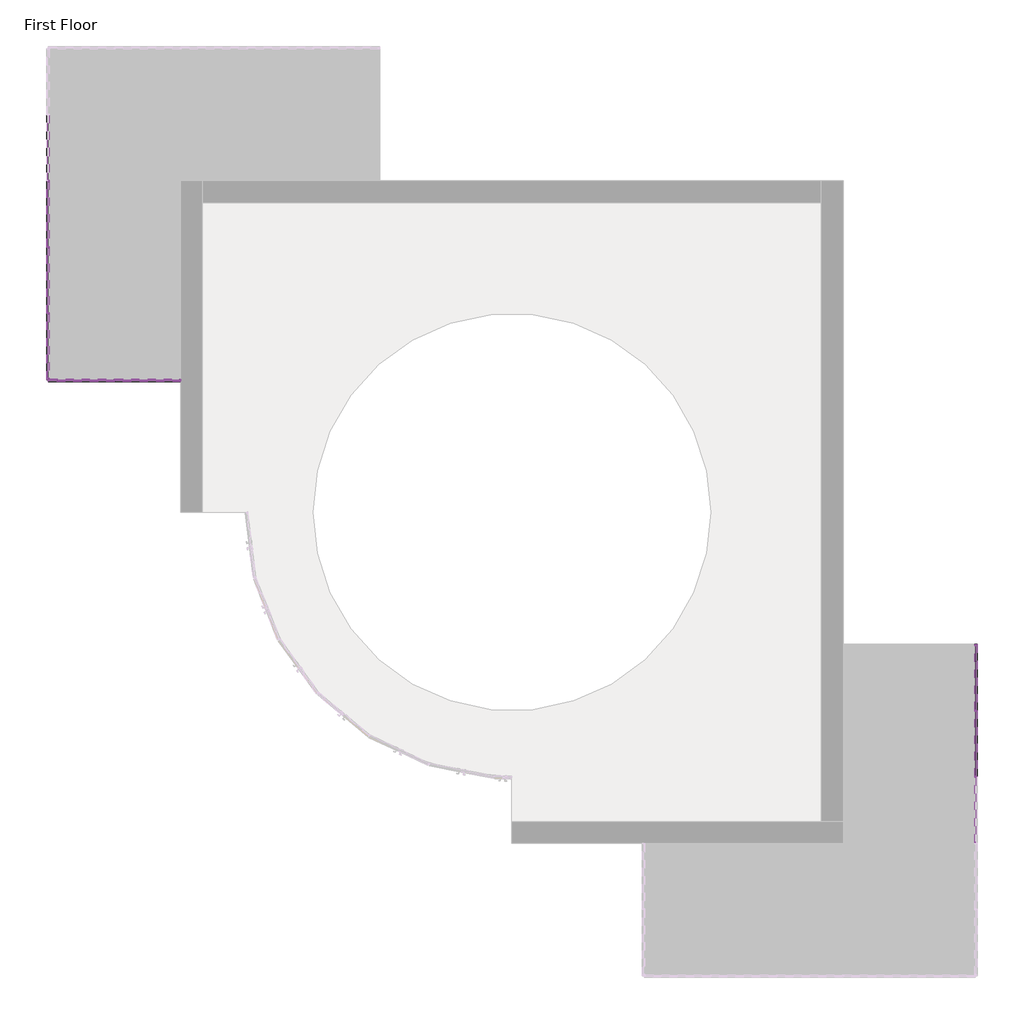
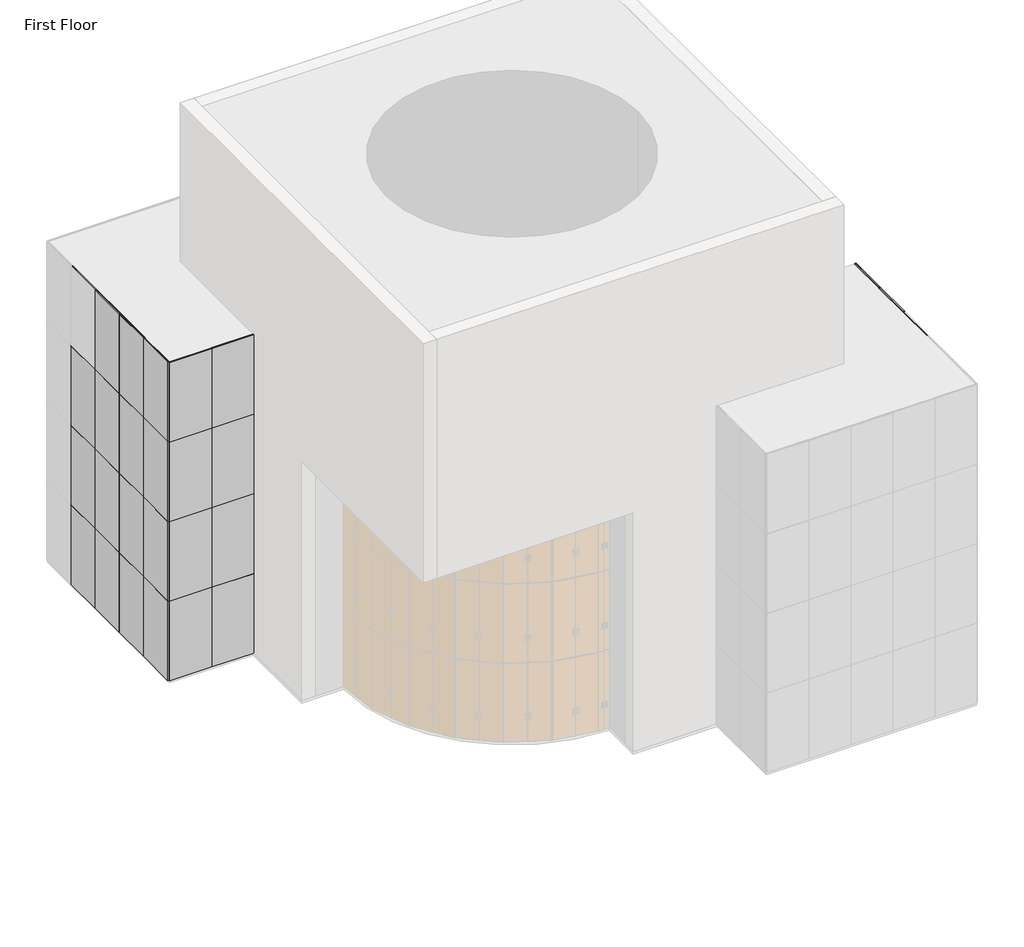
# One storey, part 3 of 4: 83 members, 31 plates.
"""IFC4 building model written with IfcOpenShell, lengths in millimetres."""

import ifcopenshell
import ifcopenshell.guid

model = None  # the IFC model being written
_history = None  # IfcOwnerHistory: only IFC2X3 demands one
_inside = {}  # id of a spatial element -> (the spatial element, [elements in it])
_under = {}  # id of a project, library or spatial element -> (it, [spatial elements below it])
_declared = {}  # id of a project -> (the project, [libraries it declares])
_typed = {}  # id of a type object -> (the type object, [elements of that type])
_made_of = {}  # id of a material, layer set ... -> (it, [elements and type objects made of it])


def new_model(schema):
    """Start an empty IFC model of exactly this schema.

    Asked for "IFC4X3", IfcOpenShell would pick the latest addendum, in which some entities
    have other attributes; the version numbers below select the first issue.
    IFC2X3 requires an IfcOwnerHistory on every rooted entity: one is made here for all.
    """
    global model, _history
    if schema == "IFC4X3":
        model = ifcopenshell.file(schema_version=(4, 3, 0, 0))
    else:
        model = ifcopenshell.file(schema=schema)
    _inside.clear()
    _under.clear()
    _declared.clear()
    _typed.clear()
    _made_of.clear()
    _history = None
    if model.schema == "IFC2X3":
        org = make("IfcOrganization", Name="unknown")
        user = make(
            "IfcPersonAndOrganization",
            ThePerson=make("IfcPerson", FamilyName="unknown"),
            TheOrganization=org,
        )
        app = make(
            "IfcApplication",
            ApplicationDeveloper=org,
            Version="unknown",
            ApplicationFullName="unknown",
            ApplicationIdentifier="unknown",
        )
        _history = make(
            "IfcOwnerHistory",
            OwningUser=user,
            OwningApplication=app,
            ChangeAction="ADDED",
            CreationDate=0,
        )
    return model


def make(cls, **values):
    """One entity of the class cls with the attributes given. An attribute that is None is left unset."""
    return model.create_entity(
        cls, **{name: value for name, value in values.items() if value is not None}
    )


def rooted(cls, **values):
    """An entity with a GlobalId (a new one), such as an element, a storey or a relation."""
    return make(cls, GlobalId=ifcopenshell.guid.new(), OwnerHistory=_history, **values)


def si_unit(unit_type, name, prefix=None):
    """IfcSIUnit, for example si_unit("LENGTHUNIT", "METRE", prefix="MILLI")."""
    return make("IfcSIUnit", UnitType=unit_type, Prefix=prefix, Name=name)


def assignment(units):
    """IfcUnitAssignment: the units of a project."""
    return None if units is None else make("IfcUnitAssignment", Units=units)


def point(xyz):
    """IfcCartesianPoint."""
    return None if xyz is None else make("IfcCartesianPoint", Coordinates=xyz)


def direction(xyz):
    """IfcDirection."""
    return None if xyz is None else make("IfcDirection", DirectionRatios=xyz)


def frame(location, z_axis=None, x_axis=None):
    """IfcAxis2Placement3D, a coordinate frame: its origin and axes. An axis left out is left unset."""
    return make(
        "IfcAxis2Placement3D",
        Location=point(location),
        Axis=direction(z_axis),
        RefDirection=direction(x_axis),
    )


def origin():
    """The frame at (0, 0, 0) with its axes left unset."""
    return frame((0.0, 0.0, 0.0))


def origin_with_axes():
    """The frame at (0, 0, 0) with the z axis (0, 0, 1) and the x axis (1, 0, 0) written out."""
    return frame((0.0, 0.0, 0.0), z_axis=(0.0, 0.0, 1.0), x_axis=(1.0, 0.0, 0.0))


def place(relative_to, where):
    """IfcLocalPlacement: puts the frame where relative to a parent placement (None: the world)."""
    return make(
        "IfcLocalPlacement", PlacementRelTo=relative_to, RelativePlacement=where
    )


def context(
    kind, dimensions, precision=None, world=None, true_north=None, identifier=None
):
    """IfcGeometricRepresentationContext, for example the 3D "Model" context."""
    return make(
        "IfcGeometricRepresentationContext",
        ContextIdentifier=identifier,
        ContextType=kind,
        CoordinateSpaceDimension=dimensions,
        Precision=precision,
        WorldCoordinateSystem=world,
        TrueNorth=true_north,
    )


def project(units=None, contexts=None):
    """IfcProject with its units and contexts."""
    return rooted(
        "IfcProject",
        Name="project",
        RepresentationContexts=contexts,
        UnitsInContext=assignment(units),
    )


def spatial(cls, under=None, at=None, **own):
    """A site, building, storey or space (cls), placed at a placement, below another one or the project."""
    s = rooted(cls, ObjectPlacement=at, **own)
    if under is not None:
        _under.setdefault(under.id(), (under, []))[1].append(s)
    return s


def polyline(points):
    """IfcPolyline through the points."""
    return make("IfcPolyline", Points=[point(p) for p in points])


def outline(outer, holes=None, kind="AREA"):
    """IfcArbitraryClosedProfileDef: a profile drawn as a closed curve; with holes, ...WithVoids."""
    if holes is None:
        return make("IfcArbitraryClosedProfileDef", ProfileType=kind, OuterCurve=outer)
    return make(
        "IfcArbitraryProfileDefWithVoids",
        ProfileType=kind,
        OuterCurve=outer,
        InnerCurves=holes,
    )


def extrude(swept, where, along, depth):
    """IfcExtrudedAreaSolid: the profile swept, set in the frame where, extruded along a direction by depth."""
    return make(
        "IfcExtrudedAreaSolid",
        SweptArea=swept,
        Position=where,
        ExtrudedDirection=direction(along),
        Depth=depth,
    )


def shape(context_of_items, identifier, shape_type, items):
    """IfcShapeRepresentation: the items that make up one representation, for example the "Body"."""
    return make(
        "IfcShapeRepresentation",
        ContextOfItems=context_of_items,
        RepresentationIdentifier=identifier,
        RepresentationType=shape_type,
        Items=items,
    )


def source(mapping_origin, context_of_items, identifier, shape_type, items):
    """IfcRepresentationMap: a shape defined once, which mapped items show again and again."""
    return make(
        "IfcRepresentationMap",
        MappingOrigin=mapping_origin,
        MappedRepresentation=shape(context_of_items, identifier, shape_type, items),
    )


def transform(
    local_origin,
    x_axis=None,
    y_axis=None,
    z_axis=None,
    scale=None,
    scale2=None,
    scale3=None,
    uniform=True,
):
    """IfcCartesianTransformationOperator3D, or its non-uniform kind. x_axis, y_axis, z_axis: its Axis1, 2, 3."""
    if uniform:
        return make(
            "IfcCartesianTransformationOperator3D",
            Axis1=direction(x_axis),
            Axis2=direction(y_axis),
            LocalOrigin=point(local_origin),
            Scale=scale,
            Axis3=direction(z_axis),
        )
    return make(
        "IfcCartesianTransformationOperator3DnonUniform",
        Axis1=direction(x_axis),
        Axis2=direction(y_axis),
        LocalOrigin=point(local_origin),
        Scale=scale,
        Axis3=direction(z_axis),
        Scale2=scale2,
        Scale3=scale3,
    )


def mapped(mapping_source, mapping_target):
    """IfcMappedItem: shows the shape of a source again, moved by a transform."""
    return make(
        "IfcMappedItem", MappingSource=mapping_source, MappingTarget=mapping_target
    )


def made_of(thing, what):
    """Note that an element or type object is made of a material, layer set ...; save() writes the relation."""
    if what is not None:
        _made_of.setdefault(what.id(), (what, []))[1].append(thing)
    return thing


def element(
    cls,
    number,
    at=None,
    inside=None,
    cuts=None,
    type_object=None,
    material=None,
    context=None,
    identifier="Body",
    shape_type=None,
    held_by="IfcProductDefinitionShape",
    body=None,
    shapes=None,
    **own,
):
    """One element of the class cls, such as IfcWall. Its Tag is "e" and its number.

    at: its placement. inside: the storey or other place that contains it. cuts: it is an
    opening in that element (IfcRelVoidsElement). A single representation is given by context,
    identifier, shape_type and body (its items); several are given by shapes. held_by: the class
    of the entity that holds the representations. save() writes the other relations.
    """
    e = rooted(cls, Tag="e%d" % number, ObjectPlacement=at, **own)
    if body is not None:
        shapes = [shape(context, identifier, shape_type, body)]
    if shapes is not None:
        e.Representation = make(held_by, Representations=shapes)
    if inside is not None:
        _inside.setdefault(inside.id(), (inside, []))[1].append(e)
    if cuts is not None:
        rooted(
            "IfcRelVoidsElement", RelatingBuildingElement=cuts, RelatedOpeningElement=e
        )
    if type_object is not None:
        _typed.setdefault(type_object.id(), (type_object, []))[1].append(e)
    return made_of(e, material)


def aggregate(whole, parts):
    """IfcRelAggregates: a whole, such as a stair, and the parts it consists of."""
    return rooted("IfcRelAggregates", RelatingObject=whole, RelatedObjects=parts)


def save(model, path):
    """Write the relations noted so far, then the file.

    IfcRelAggregates (storeys below a building ...), IfcRelContainedInSpatialStructure (elements
    in a storey), IfcRelDefinesByType, IfcRelAssociatesMaterial and IfcRelDeclares: one each for
    every whole, place, type object, material and project.
    """
    for whole, parts in _under.values():
        aggregate(whole, parts)
    for where, things in _inside.values():
        rooted(
            "IfcRelContainedInSpatialStructure",
            RelatedElements=things,
            RelatingStructure=where,
        )
    for kind, things in _typed.values():
        rooted("IfcRelDefinesByType", RelatedObjects=things, RelatingType=kind)
    for what, things in _made_of.values():
        rooted("IfcRelAssociatesMaterial", RelatedObjects=things, RelatingMaterial=what)
    for by, libraries in _declared.values():
        rooted("IfcRelDeclares", RelatingContext=by, RelatedDefinitions=libraries)
    model.write(path)


def member_cbdb9076(model_context):
    return source(origin(), model_context, "Body", "SweptSolid", [
        extrude(outline(polyline([(12.7, 12.7), (12.7, -12.7), (-12.7, -12.7), (-12.7, 12.7), (12.7, 12.7)])), frame((0.0, 0.0, -3048.0), z_axis=(0.0, 0.0, 1.0), x_axis=(1.0, 0.0, 0.0)), (0.0, 0.0, 1.0), 3048.0),
    ])


def member_7e523723(model_context):
    return source(origin(), model_context, "Body", "SweptSolid", [
        extrude(outline(polyline([(0.0, 12.7), (0.0, -12.7), (-25.4, -12.7), (-25.4, 12.7), (0.0, 12.7)])), frame((0.0, 0.0, -3048.0), z_axis=(0.0, 0.0, 1.0), x_axis=(1.0, 0.0, 0.0)), (0.0, 0.0, 1.0), 3048.0),
    ])


def member_e16e0e7d(model_context):
    return source(origin(), model_context, "Body", "SweptSolid", [
        extrude(outline(polyline([(0.0, 12.7), (0.0, -12.7), (-25.4, -12.7), (-25.4, 12.7), (0.0, 12.7)])), frame((0.0, 0.0, -1485.8999997), z_axis=(0.0, 0.0, 1.0), x_axis=(1.0, 0.0, 0.0)), (0.0, 0.0, 1.0), 1485.8999997),
    ])


def member_15743826(model_context):
    return source(origin(), model_context, "Body", "SweptSolid", [
        extrude(outline(polyline([(0.0, 12.7), (0.0, -12.7), (-25.4, -12.7), (-25.4, 12.7), (0.0, 12.7)])), frame((0.0, 0.0, -1485.9000003), z_axis=(0.0, 0.0, 1.0), x_axis=(1.0, 0.0, 0.0)), (0.0, 0.0, 1.0), 1485.9000003),
    ])


def member_c4f80b05(model_context):
    return source(origin(), model_context, "Body", "SweptSolid", [
        extrude(outline(polyline([(12.7, 12.7), (12.7, -12.7), (-12.7, -12.7), (-12.7, 12.7), (12.7, 12.7)])), frame((0.0, 0.0, -1485.9000003), z_axis=(0.0, 0.0, 1.0), x_axis=(1.0, 0.0, 0.0)), (0.0, 0.0, 1.0), 1485.9000003),
    ])


def member_9fd3d903(model_context):
    return source(origin(), model_context, "Body", "SweptSolid", [
        extrude(outline(polyline([(12.7, 12.7), (12.7, -12.7), (-12.7, -12.7), (-12.7, 12.7), (12.7, 12.7)])), frame((0.0, 0.0, -1498.6), z_axis=(0.0, 0.0, 1.0), x_axis=(1.0, 0.0, 0.0)), (0.0, 0.0, 1.0), 1498.6),
    ])


def member_6604d1e0(model_context):
    return source(origin(), model_context, "Body", "SweptSolid", [
        extrude(outline(polyline([(0.0, 12.7), (0.0, -12.7), (-25.4, -12.7), (-25.4, 12.7), (0.0, 12.7)])), frame((0.0, 0.0, -1498.6), z_axis=(0.0, 0.0, 1.0), x_axis=(1.0, 0.0, 0.0)), (0.0, 0.0, 1.0), 1498.6),
    ])


def system_panel_glazed_c0c5e10a(model_context):
    return source(origin(), model_context, "Body", "SweptSolid", [
        extrude(outline(polyline([(762.0000002, -44.45), (-762.0000002, -44.45), (-762.0000002, -19.05), (762.0000002, -19.05), (762.0000002, -44.45)])), origin_with_axes(), (0.0, 0.0, 1.0), 3048.0),
    ])


model = new_model("IFC4")

# Units and contexts
model_context = context("Model", 3, world=origin())
ifc_project = project(units=[si_unit("LENGTHUNIT", "METRE", prefix="MILLI")], contexts=[model_context])

# Site, building, storey
site = spatial("IfcSite", under=ifc_project)
building = spatial("IfcBuilding", under=site)
storey = spatial("IfcBuildingStorey", under=building, Name="First Floor", Elevation=0.0)

# Members
placement = place(None, origin())
member_shape = member_cbdb9076(model_context)
element("IfcMember", 1, ObjectType="Rectangular Mullion : 1\" Square", at=placement, inside=storey, context=model_context, shape_type="MappedRepresentation", body=[
    mapped(member_shape, transform((10913.314252, -6138.6219492, 0.0), x_axis=(0.0, 1.0, 0.0), y_axis=(1.0, 0.0, 0.0), z_axis=(0.0, 0.0, -1.0))),
])
element("IfcMember", 2, ObjectType="Rectangular Mullion : 1\" Square", at=placement, inside=storey, context=model_context, shape_type="MappedRepresentation", body=[
    mapped(member_shape, transform((10913.314252, -4614.6219492, 0.0), x_axis=(0.0, 1.0, 0.0), y_axis=(1.0, 0.0, 0.0), z_axis=(0.0, 0.0, -1.0))),
])
element("IfcMember", 3, ObjectType="Rectangular Mullion : 1\" Square", at=placement, inside=storey, context=model_context, shape_type="MappedRepresentation", body=[
    mapped(member_shape, transform((-8898.6857477, 3005.3780505, 0.0), x_axis=(1.0, 0.0, 0.0), y_axis=(0.0, -1.0, 0.0), z_axis=(0.0, 0.0, -1.0))),
])
element("IfcMember", 4, ObjectType="Rectangular Mullion : 1\" Square", at=placement, inside=storey, context=model_context, shape_type="MappedRepresentation", body=[
    mapped(member_shape, transform((-10422.685748, 7577.3780502, 0.0), x_axis=(0.0, -1.0, 0.0), y_axis=(-1.0, 0.0, 0.0), z_axis=(0.0, 0.0, -1.0))),
])
element("IfcMember", 5, ObjectType="Rectangular Mullion : 1\" Square", at=placement, inside=storey, context=model_context, shape_type="MappedRepresentation", body=[
    mapped(member_shape, transform((-10422.685748, 6053.3780502, 0.0), x_axis=(0.0, -1.0, 0.0), y_axis=(-1.0, 0.0, 0.0), z_axis=(0.0, 0.0, -1.0))),
])
element("IfcMember", 6, ObjectType="Rectangular Mullion : 1\" Square", at=placement, inside=storey, context=model_context, shape_type="MappedRepresentation", body=[
    mapped(member_shape, transform((-10422.685748, 4529.3780502, 0.0), x_axis=(0.0, -1.0, 0.0), y_axis=(-1.0, 0.0, 0.0), z_axis=(0.0, 0.0, -1.0))),
])
element("IfcMember", 7, ObjectType="Rectangular Mullion : 1\" Square", at=placement, inside=storey, context=model_context, shape_type="MappedRepresentation", body=[
    mapped(member_shape, transform((10913.314252, -6138.6219492, 3048.0), x_axis=(0.0, 1.0, 0.0), y_axis=(1.0, 0.0, 0.0), z_axis=(0.0, 0.0, -1.0))),
])
element("IfcMember", 8, ObjectType="Rectangular Mullion : 1\" Square", at=placement, inside=storey, context=model_context, shape_type="MappedRepresentation", body=[
    mapped(member_shape, transform((10913.314252, -6138.6219492, 6096.0), x_axis=(0.0, 1.0, 0.0), y_axis=(1.0, 0.0, 0.0), z_axis=(0.0, 0.0, -1.0))),
])
element("IfcMember", 9, ObjectType="Rectangular Mullion : 1\" Square", at=placement, inside=storey, context=model_context, shape_type="MappedRepresentation", body=[
    mapped(member_shape, transform((10913.314252, -4614.6219492, 3048.0), x_axis=(0.0, 1.0, 0.0), y_axis=(1.0, 0.0, 0.0), z_axis=(0.0, 0.0, -1.0))),
])
element("IfcMember", 10, ObjectType="Rectangular Mullion : 1\" Square", at=placement, inside=storey, context=model_context, shape_type="MappedRepresentation", body=[
    mapped(member_shape, transform((10913.314252, -4614.6219492, 6096.0), x_axis=(0.0, 1.0, 0.0), y_axis=(1.0, 0.0, 0.0), z_axis=(0.0, 0.0, -1.0))),
])
element("IfcMember", 11, ObjectType="Rectangular Mullion : 1\" Square", at=placement, inside=storey, context=model_context, shape_type="MappedRepresentation", body=[
    mapped(member_shape, transform((-8898.6857477, 3005.3780505, 3048.0), x_axis=(1.0, 0.0, 0.0), y_axis=(0.0, -1.0, 0.0), z_axis=(0.0, 0.0, -1.0))),
])
element("IfcMember", 12, ObjectType="Rectangular Mullion : 1\" Square", at=placement, inside=storey, context=model_context, shape_type="MappedRepresentation", body=[
    mapped(member_shape, transform((-8898.6857477, 3005.3780505, 6096.0), x_axis=(1.0, 0.0, 0.0), y_axis=(0.0, -1.0, 0.0), z_axis=(0.0, 0.0, -1.0))),
])
element("IfcMember", 13, ObjectType="Rectangular Mullion : 1\" Square", at=placement, inside=storey, context=model_context, shape_type="MappedRepresentation", body=[
    mapped(member_shape, transform((-10422.685748, 7577.3780502, 3048.0), x_axis=(0.0, -1.0, 0.0), y_axis=(-1.0, 0.0, 0.0), z_axis=(0.0, 0.0, -1.0))),
])
element("IfcMember", 14, ObjectType="Rectangular Mullion : 1\" Square", at=placement, inside=storey, context=model_context, shape_type="MappedRepresentation", body=[
    mapped(member_shape, transform((-10422.685748, 7577.3780502, 6096.0), x_axis=(0.0, -1.0, 0.0), y_axis=(-1.0, 0.0, 0.0), z_axis=(0.0, 0.0, -1.0))),
])
element("IfcMember", 15, ObjectType="Rectangular Mullion : 1\" Square", at=placement, inside=storey, context=model_context, shape_type="MappedRepresentation", body=[
    mapped(member_shape, transform((-10422.685748, 6053.3780502, 3048.0), x_axis=(0.0, -1.0, 0.0), y_axis=(-1.0, 0.0, 0.0), z_axis=(0.0, 0.0, -1.0))),
])
element("IfcMember", 16, ObjectType="Rectangular Mullion : 1\" Square", at=placement, inside=storey, context=model_context, shape_type="MappedRepresentation", body=[
    mapped(member_shape, transform((-10422.685748, 6053.3780502, 6096.0), x_axis=(0.0, -1.0, 0.0), y_axis=(-1.0, 0.0, 0.0), z_axis=(0.0, 0.0, -1.0))),
])
element("IfcMember", 17, ObjectType="Rectangular Mullion : 1\" Square", at=placement, inside=storey, context=model_context, shape_type="MappedRepresentation", body=[
    mapped(member_shape, transform((-10422.685748, 4529.3780502, 3048.0), x_axis=(0.0, -1.0, 0.0), y_axis=(-1.0, 0.0, 0.0), z_axis=(0.0, 0.0, -1.0))),
])
element("IfcMember", 18, ObjectType="Rectangular Mullion : 1\" Square", at=placement, inside=storey, context=model_context, shape_type="MappedRepresentation", body=[
    mapped(member_shape, transform((-10422.685748, 4529.3780502, 6096.0), x_axis=(0.0, -1.0, 0.0), y_axis=(-1.0, 0.0, 0.0), z_axis=(0.0, 0.0, -1.0))),
])
element("IfcMember", 19, ObjectType="Rectangular Mullion : 1\" Square", at=placement, inside=storey, context=model_context, shape_type="MappedRepresentation", body=[
    mapped(member_shape, transform((10913.314252, -6138.6219492, 9144.0), x_axis=(0.0, 1.0, 0.0), y_axis=(1.0, 0.0, 0.0), z_axis=(0.0, 0.0, -1.0))),
])
element("IfcMember", 20, ObjectType="Rectangular Mullion : 1\" Square", at=placement, inside=storey, context=model_context, shape_type="MappedRepresentation", body=[
    mapped(member_shape, transform((10913.314252, -4614.6219492, 9144.0), x_axis=(0.0, 1.0, 0.0), y_axis=(1.0, 0.0, 0.0), z_axis=(0.0, 0.0, -1.0))),
])
element("IfcMember", 21, ObjectType="Rectangular Mullion : 1\" Square", at=placement, inside=storey, context=model_context, shape_type="MappedRepresentation", body=[
    mapped(member_shape, transform((-8898.6857477, 3005.3780505, 9144.0), x_axis=(1.0, 0.0, 0.0), y_axis=(0.0, -1.0, 0.0), z_axis=(0.0, 0.0, -1.0))),
])
element("IfcMember", 22, ObjectType="Rectangular Mullion : 1\" Square", at=placement, inside=storey, context=model_context, shape_type="MappedRepresentation", body=[
    mapped(member_shape, transform((-10422.685748, 7577.3780502, 9144.0), x_axis=(0.0, -1.0, 0.0), y_axis=(-1.0, 0.0, 0.0), z_axis=(0.0, 0.0, -1.0))),
])
element("IfcMember", 23, ObjectType="Rectangular Mullion : 1\" Square", at=placement, inside=storey, context=model_context, shape_type="MappedRepresentation", body=[
    mapped(member_shape, transform((-10422.685748, 6053.3780502, 9144.0), x_axis=(0.0, -1.0, 0.0), y_axis=(-1.0, 0.0, 0.0), z_axis=(0.0, 0.0, -1.0))),
])
element("IfcMember", 24, ObjectType="Rectangular Mullion : 1\" Square", at=placement, inside=storey, context=model_context, shape_type="MappedRepresentation", body=[
    mapped(member_shape, transform((-10422.685748, 4529.3780502, 9144.0), x_axis=(0.0, -1.0, 0.0), y_axis=(-1.0, 0.0, 0.0), z_axis=(0.0, 0.0, -1.0))),
])
member_2_shape = member_7e523723(model_context)
element("IfcMember", 25, ObjectType="Rectangular Mullion : 1\" Square", at=placement, inside=storey, context=model_context, shape_type="MappedRepresentation", body=[
    mapped(member_2_shape, transform((10913.314252, -3090.6219495, 0.0), x_axis=(0.0, 1.0, 0.0), y_axis=(1.0, 0.0, 0.0), z_axis=(0.0, 0.0, -1.0))),
])
element("IfcMember", 26, ObjectType="Rectangular Mullion : 1\" Square", at=placement, inside=storey, context=model_context, shape_type="MappedRepresentation", body=[
    mapped(member_2_shape, transform((-7374.685748, 3005.3780505, 0.0), x_axis=(1.0, 0.0, 0.0), y_axis=(0.0, -1.0, 0.0), z_axis=(0.0, 0.0, -1.0))),
])
element("IfcMember", 27, ObjectType="Rectangular Mullion : 1\" Square", at=placement, inside=storey, context=model_context, shape_type="MappedRepresentation", body=[
    mapped(member_2_shape, transform((-10422.685748, 3005.3780505, 0.0), x_axis=(0.0, -1.0, 0.0), y_axis=(-1.0, 0.0, 0.0), z_axis=(0.0, 0.0, -1.0))),
])
element("IfcMember", 28, ObjectType="Rectangular Mullion : 1\" Square", at=placement, inside=storey, context=model_context, shape_type="MappedRepresentation", body=[
    mapped(member_2_shape, transform((-10422.685748, 3005.3780505, 12192.0), x_axis=(-1.0, 0.0, 0.0), y_axis=(0.0, -1.0, 0.0), z_axis=(0.0, 0.0, 1.0))),
])
element("IfcMember", 29, ObjectType="Rectangular Mullion : 1\" Square", at=placement, inside=storey, context=model_context, shape_type="MappedRepresentation", body=[
    mapped(member_2_shape, transform((-10422.685748, 3005.3780505, 3048.0), x_axis=(-1.0, 0.0, 0.0), y_axis=(0.0, -1.0, 0.0), z_axis=(0.0, 0.0, 1.0))),
])
element("IfcMember", 30, ObjectType="Rectangular Mullion : 1\" Square", at=placement, inside=storey, context=model_context, shape_type="MappedRepresentation", body=[
    mapped(member_2_shape, transform((-10422.685748, 3005.3780505, 6096.0), x_axis=(-1.0, 0.0, 0.0), y_axis=(0.0, -1.0, 0.0), z_axis=(0.0, 0.0, 1.0))),
])
element("IfcMember", 31, ObjectType="Rectangular Mullion : 1\" Square", at=placement, inside=storey, context=model_context, shape_type="MappedRepresentation", body=[
    mapped(member_2_shape, transform((-10422.685748, 3005.3780505, 9144.0), x_axis=(-1.0, 0.0, 0.0), y_axis=(0.0, -1.0, 0.0), z_axis=(0.0, 0.0, 1.0))),
])
element("IfcMember", 32, ObjectType="Rectangular Mullion : 1\" Square", at=placement, inside=storey, context=model_context, shape_type="MappedRepresentation", body=[
    mapped(member_2_shape, transform((10913.314252, -3090.6219495, 3048.0), x_axis=(0.0, 1.0, 0.0), y_axis=(1.0, 0.0, 0.0), z_axis=(0.0, 0.0, -1.0))),
])
element("IfcMember", 33, ObjectType="Rectangular Mullion : 1\" Square", at=placement, inside=storey, context=model_context, shape_type="MappedRepresentation", body=[
    mapped(member_2_shape, transform((10913.314252, -3090.6219495, 6096.0), x_axis=(0.0, 1.0, 0.0), y_axis=(1.0, 0.0, 0.0), z_axis=(0.0, 0.0, -1.0))),
])
element("IfcMember", 34, ObjectType="Rectangular Mullion : 1\" Square", at=placement, inside=storey, context=model_context, shape_type="MappedRepresentation", body=[
    mapped(member_2_shape, transform((-7374.685748, 3005.3780505, 3048.0), x_axis=(1.0, 0.0, 0.0), y_axis=(0.0, -1.0, 0.0), z_axis=(0.0, 0.0, -1.0))),
])
element("IfcMember", 35, ObjectType="Rectangular Mullion : 1\" Square", at=placement, inside=storey, context=model_context, shape_type="MappedRepresentation", body=[
    mapped(member_2_shape, transform((-7374.685748, 3005.3780505, 6096.0), x_axis=(1.0, 0.0, 0.0), y_axis=(0.0, -1.0, 0.0), z_axis=(0.0, 0.0, -1.0))),
])
element("IfcMember", 36, ObjectType="Rectangular Mullion : 1\" Square", at=placement, inside=storey, context=model_context, shape_type="MappedRepresentation", body=[
    mapped(member_2_shape, transform((-10422.685748, 3005.3780505, 3048.0), x_axis=(0.0, -1.0, 0.0), y_axis=(-1.0, 0.0, 0.0), z_axis=(0.0, 0.0, -1.0))),
])
element("IfcMember", 37, ObjectType="Rectangular Mullion : 1\" Square", at=placement, inside=storey, context=model_context, shape_type="MappedRepresentation", body=[
    mapped(member_2_shape, transform((-10422.685748, 3005.3780505, 6096.0), x_axis=(0.0, -1.0, 0.0), y_axis=(-1.0, 0.0, 0.0), z_axis=(0.0, 0.0, -1.0))),
])
element("IfcMember", 38, ObjectType="Rectangular Mullion : 1\" Square", at=placement, inside=storey, context=model_context, shape_type="MappedRepresentation", body=[
    mapped(member_2_shape, transform((10913.314252, -3090.6219495, 9144.0), x_axis=(0.0, 1.0, 0.0), y_axis=(1.0, 0.0, 0.0), z_axis=(0.0, 0.0, -1.0))),
])
element("IfcMember", 39, ObjectType="Rectangular Mullion : 1\" Square", at=placement, inside=storey, context=model_context, shape_type="MappedRepresentation", body=[
    mapped(member_2_shape, transform((-7374.685748, 3005.3780505, 9144.0), x_axis=(1.0, 0.0, 0.0), y_axis=(0.0, -1.0, 0.0), z_axis=(0.0, 0.0, -1.0))),
])
element("IfcMember", 40, ObjectType="Rectangular Mullion : 1\" Square", at=placement, inside=storey, context=model_context, shape_type="MappedRepresentation", body=[
    mapped(member_2_shape, transform((-10422.685748, 3005.3780505, 9144.0), x_axis=(0.0, -1.0, 0.0), y_axis=(-1.0, 0.0, 0.0), z_axis=(0.0, 0.0, -1.0))),
])
member_3_shape = member_e16e0e7d(model_context)
element("IfcMember", 41, ObjectType="Rectangular Mullion : 1\" Square", at=placement, inside=storey, context=model_context, shape_type="MappedRepresentation", body=[
    mapped(member_3_shape, transform((10913.314252, -3116.0219495, 12192.0), x_axis=(0.0, 0.0, 1.0), y_axis=(1.0, 0.0, 0.0), z_axis=(0.0, 1.0, 0.0))),
])
element("IfcMember", 42, ObjectType="Rectangular Mullion : 1\" Square", at=placement, inside=storey, context=model_context, shape_type="MappedRepresentation", body=[
    mapped(member_3_shape, transform((-7400.085748, 3005.3780505, 12192.0), x_axis=(0.0, 0.0, 1.0), y_axis=(0.0, -1.0, 0.0), z_axis=(1.0, 0.0, 0.0))),
])
element("IfcMember", 43, ObjectType="Rectangular Mullion : 1\" Square", at=placement, inside=storey, context=model_context, shape_type="MappedRepresentation", body=[
    mapped(member_3_shape, transform((-8911.3857477, 3005.3780505, 12192.0), x_axis=(0.0, 0.0, 1.0), y_axis=(0.0, -1.0, 0.0), z_axis=(1.0, 0.0, 0.0))),
])
element("IfcMember", 44, ObjectType="Rectangular Mullion : 1\" Square", at=placement, inside=storey, context=model_context, shape_type="MappedRepresentation", body=[
    mapped(member_3_shape, transform((-10422.685748, 3030.7780505, 12192.0), x_axis=(0.0, 0.0, 1.0), y_axis=(-1.0, 0.0, 0.0), z_axis=(0.0, -1.0, 0.0))),
])
member_4_shape = member_15743826(model_context)
element("IfcMember", 45, ObjectType="Rectangular Mullion : 1\" Square", at=placement, inside=storey, context=model_context, shape_type="MappedRepresentation", body=[
    mapped(member_4_shape, transform((10913.314252, -4601.9219492, 0.0), x_axis=(0.0, 0.0, -1.0), y_axis=(1.0, 0.0, 0.0), z_axis=(0.0, -1.0, 0.0))),
])
element("IfcMember", 46, ObjectType="Rectangular Mullion : 1\" Square", at=placement, inside=storey, context=model_context, shape_type="MappedRepresentation", body=[
    mapped(member_4_shape, transform((-10397.285748, 3005.3780505, 0.0), x_axis=(0.0, 0.0, -1.0), y_axis=(0.0, -1.0, 0.0), z_axis=(-1.0, 0.0, 0.0))),
])
element("IfcMember", 47, ObjectType="Rectangular Mullion : 1\" Square", at=placement, inside=storey, context=model_context, shape_type="MappedRepresentation", body=[
    mapped(member_4_shape, transform((-8885.9857477, 3005.3780505, 0.0), x_axis=(0.0, 0.0, -1.0), y_axis=(0.0, -1.0, 0.0), z_axis=(-1.0, 0.0, 0.0))),
])
element("IfcMember", 48, ObjectType="Rectangular Mullion : 1\" Square", at=placement, inside=storey, context=model_context, shape_type="MappedRepresentation", body=[
    mapped(member_4_shape, transform((-10422.685748, 4516.6780502, 0.0), x_axis=(0.0, 0.0, -1.0), y_axis=(-1.0, 0.0, 0.0), z_axis=(0.0, 1.0, 0.0))),
])
member_5_shape = member_c4f80b05(model_context)
element("IfcMember", 49, ObjectType="Rectangular Mullion : 1\" Square", at=placement, inside=storey, context=model_context, shape_type="MappedRepresentation", body=[
    mapped(member_5_shape, transform((10913.314252, -3116.0219495, 3048.0), x_axis=(0.0, 0.0, 1.0), y_axis=(1.0, 0.0, 0.0), z_axis=(0.0, 1.0, 0.0))),
])
element("IfcMember", 50, ObjectType="Rectangular Mullion : 1\" Square", at=placement, inside=storey, context=model_context, shape_type="MappedRepresentation", body=[
    mapped(member_5_shape, transform((10913.314252, -3116.0219495, 6096.0), x_axis=(0.0, 0.0, 1.0), y_axis=(1.0, 0.0, 0.0), z_axis=(0.0, 1.0, 0.0))),
])
element("IfcMember", 51, ObjectType="Rectangular Mullion : 1\" Square", at=placement, inside=storey, context=model_context, shape_type="MappedRepresentation", body=[
    mapped(member_5_shape, transform((10913.314252, -3116.0219495, 9144.0), x_axis=(0.0, 0.0, 1.0), y_axis=(1.0, 0.0, 0.0), z_axis=(0.0, 1.0, 0.0))),
])
element("IfcMember", 52, ObjectType="Rectangular Mullion : 1\" Square", at=placement, inside=storey, context=model_context, shape_type="MappedRepresentation", body=[
    mapped(member_5_shape, transform((-8911.3857477, 3005.3780505, 3048.0), x_axis=(0.0, 0.0, 1.0), y_axis=(0.0, -1.0, 0.0), z_axis=(1.0, 0.0, 0.0))),
])
element("IfcMember", 53, ObjectType="Rectangular Mullion : 1\" Square", at=placement, inside=storey, context=model_context, shape_type="MappedRepresentation", body=[
    mapped(member_5_shape, transform((-7400.085748, 3005.3780505, 3048.0), x_axis=(0.0, 0.0, 1.0), y_axis=(0.0, -1.0, 0.0), z_axis=(1.0, 0.0, 0.0))),
])
element("IfcMember", 54, ObjectType="Rectangular Mullion : 1\" Square", at=placement, inside=storey, context=model_context, shape_type="MappedRepresentation", body=[
    mapped(member_5_shape, transform((-8911.3857477, 3005.3780505, 6096.0), x_axis=(0.0, 0.0, 1.0), y_axis=(0.0, -1.0, 0.0), z_axis=(1.0, 0.0, 0.0))),
])
element("IfcMember", 55, ObjectType="Rectangular Mullion : 1\" Square", at=placement, inside=storey, context=model_context, shape_type="MappedRepresentation", body=[
    mapped(member_5_shape, transform((-7400.085748, 3005.3780505, 6096.0), x_axis=(0.0, 0.0, 1.0), y_axis=(0.0, -1.0, 0.0), z_axis=(1.0, 0.0, 0.0))),
])
element("IfcMember", 56, ObjectType="Rectangular Mullion : 1\" Square", at=placement, inside=storey, context=model_context, shape_type="MappedRepresentation", body=[
    mapped(member_5_shape, transform((-8911.3857477, 3005.3780505, 9144.0), x_axis=(0.0, 0.0, 1.0), y_axis=(0.0, -1.0, 0.0), z_axis=(1.0, 0.0, 0.0))),
])
element("IfcMember", 57, ObjectType="Rectangular Mullion : 1\" Square", at=placement, inside=storey, context=model_context, shape_type="MappedRepresentation", body=[
    mapped(member_5_shape, transform((-7400.085748, 3005.3780505, 9144.0), x_axis=(0.0, 0.0, 1.0), y_axis=(0.0, -1.0, 0.0), z_axis=(1.0, 0.0, 0.0))),
])
element("IfcMember", 58, ObjectType="Rectangular Mullion : 1\" Square", at=placement, inside=storey, context=model_context, shape_type="MappedRepresentation", body=[
    mapped(member_5_shape, transform((-10422.685748, 3030.7780505, 3048.0), x_axis=(0.0, 0.0, 1.0), y_axis=(-1.0, 0.0, 0.0), z_axis=(0.0, -1.0, 0.0))),
])
element("IfcMember", 59, ObjectType="Rectangular Mullion : 1\" Square", at=placement, inside=storey, context=model_context, shape_type="MappedRepresentation", body=[
    mapped(member_5_shape, transform((-10422.685748, 3030.7780505, 6096.0), x_axis=(0.0, 0.0, 1.0), y_axis=(-1.0, 0.0, 0.0), z_axis=(0.0, -1.0, 0.0))),
])
element("IfcMember", 60, ObjectType="Rectangular Mullion : 1\" Square", at=placement, inside=storey, context=model_context, shape_type="MappedRepresentation", body=[
    mapped(member_5_shape, transform((-10422.685748, 3030.7780505, 9144.0), x_axis=(0.0, 0.0, 1.0), y_axis=(-1.0, 0.0, 0.0), z_axis=(0.0, -1.0, 0.0))),
])
member_6_shape = member_9fd3d903(model_context)
element("IfcMember", 61, ObjectType="Rectangular Mullion : 1\" Square", at=placement, inside=storey, context=model_context, shape_type="MappedRepresentation", body=[
    mapped(member_6_shape, transform((10913.314252, -6151.3219492, 3048.0), x_axis=(0.0, 0.0, 1.0), y_axis=(1.0, 0.0, 0.0), z_axis=(0.0, 1.0, 0.0))),
])
element("IfcMember", 62, ObjectType="Rectangular Mullion : 1\" Square", at=placement, inside=storey, context=model_context, shape_type="MappedRepresentation", body=[
    mapped(member_6_shape, transform((10913.314252, -4627.3219492, 3048.0), x_axis=(0.0, 0.0, 1.0), y_axis=(1.0, 0.0, 0.0), z_axis=(0.0, 1.0, 0.0))),
])
element("IfcMember", 63, ObjectType="Rectangular Mullion : 1\" Square", at=placement, inside=storey, context=model_context, shape_type="MappedRepresentation", body=[
    mapped(member_6_shape, transform((10913.314252, -6151.3219492, 6096.0), x_axis=(0.0, 0.0, 1.0), y_axis=(1.0, 0.0, 0.0), z_axis=(0.0, 1.0, 0.0))),
])
element("IfcMember", 64, ObjectType="Rectangular Mullion : 1\" Square", at=placement, inside=storey, context=model_context, shape_type="MappedRepresentation", body=[
    mapped(member_6_shape, transform((10913.314252, -4627.3219492, 6096.0), x_axis=(0.0, 0.0, 1.0), y_axis=(1.0, 0.0, 0.0), z_axis=(0.0, 1.0, 0.0))),
])
element("IfcMember", 65, ObjectType="Rectangular Mullion : 1\" Square", at=placement, inside=storey, context=model_context, shape_type="MappedRepresentation", body=[
    mapped(member_6_shape, transform((10913.314252, -6151.3219492, 9144.0), x_axis=(0.0, 0.0, 1.0), y_axis=(1.0, 0.0, 0.0), z_axis=(0.0, 1.0, 0.0))),
])
element("IfcMember", 66, ObjectType="Rectangular Mullion : 1\" Square", at=placement, inside=storey, context=model_context, shape_type="MappedRepresentation", body=[
    mapped(member_6_shape, transform((10913.314252, -4627.3219492, 9144.0), x_axis=(0.0, 0.0, 1.0), y_axis=(1.0, 0.0, 0.0), z_axis=(0.0, 1.0, 0.0))),
])
element("IfcMember", 67, ObjectType="Rectangular Mullion : 1\" Square", at=placement, inside=storey, context=model_context, shape_type="MappedRepresentation", body=[
    mapped(member_6_shape, transform((-10422.685748, 7590.0780502, 3048.0), x_axis=(0.0, 0.0, 1.0), y_axis=(-1.0, 0.0, 0.0), z_axis=(0.0, -1.0, 0.0))),
])
element("IfcMember", 68, ObjectType="Rectangular Mullion : 1\" Square", at=placement, inside=storey, context=model_context, shape_type="MappedRepresentation", body=[
    mapped(member_6_shape, transform((-10422.685748, 6066.0780502, 3048.0), x_axis=(0.0, 0.0, 1.0), y_axis=(-1.0, 0.0, 0.0), z_axis=(0.0, -1.0, 0.0))),
])
element("IfcMember", 69, ObjectType="Rectangular Mullion : 1\" Square", at=placement, inside=storey, context=model_context, shape_type="MappedRepresentation", body=[
    mapped(member_6_shape, transform((-10422.685748, 4542.0780502, 3048.0), x_axis=(0.0, 0.0, 1.0), y_axis=(-1.0, 0.0, 0.0), z_axis=(0.0, -1.0, 0.0))),
])
element("IfcMember", 70, ObjectType="Rectangular Mullion : 1\" Square", at=placement, inside=storey, context=model_context, shape_type="MappedRepresentation", body=[
    mapped(member_6_shape, transform((-10422.685748, 7590.0780502, 6096.0), x_axis=(0.0, 0.0, 1.0), y_axis=(-1.0, 0.0, 0.0), z_axis=(0.0, -1.0, 0.0))),
])
element("IfcMember", 71, ObjectType="Rectangular Mullion : 1\" Square", at=placement, inside=storey, context=model_context, shape_type="MappedRepresentation", body=[
    mapped(member_6_shape, transform((-10422.685748, 6066.0780502, 6096.0), x_axis=(0.0, 0.0, 1.0), y_axis=(-1.0, 0.0, 0.0), z_axis=(0.0, -1.0, 0.0))),
])
element("IfcMember", 72, ObjectType="Rectangular Mullion : 1\" Square", at=placement, inside=storey, context=model_context, shape_type="MappedRepresentation", body=[
    mapped(member_6_shape, transform((-10422.685748, 4542.0780502, 6096.0), x_axis=(0.0, 0.0, 1.0), y_axis=(-1.0, 0.0, 0.0), z_axis=(0.0, -1.0, 0.0))),
])
element("IfcMember", 73, ObjectType="Rectangular Mullion : 1\" Square", at=placement, inside=storey, context=model_context, shape_type="MappedRepresentation", body=[
    mapped(member_6_shape, transform((-10422.685748, 7590.0780502, 9144.0), x_axis=(0.0, 0.0, 1.0), y_axis=(-1.0, 0.0, 0.0), z_axis=(0.0, -1.0, 0.0))),
])
element("IfcMember", 74, ObjectType="Rectangular Mullion : 1\" Square", at=placement, inside=storey, context=model_context, shape_type="MappedRepresentation", body=[
    mapped(member_6_shape, transform((-10422.685748, 6066.0780502, 9144.0), x_axis=(0.0, 0.0, 1.0), y_axis=(-1.0, 0.0, 0.0), z_axis=(0.0, -1.0, 0.0))),
])
element("IfcMember", 75, ObjectType="Rectangular Mullion : 1\" Square", at=placement, inside=storey, context=model_context, shape_type="MappedRepresentation", body=[
    mapped(member_6_shape, transform((-10422.685748, 4542.0780502, 9144.0), x_axis=(0.0, 0.0, 1.0), y_axis=(-1.0, 0.0, 0.0), z_axis=(0.0, -1.0, 0.0))),
])
member_7_shape = member_6604d1e0(model_context)
element("IfcMember", 76, ObjectType="Rectangular Mullion : 1\" Square", at=placement, inside=storey, context=model_context, shape_type="MappedRepresentation", body=[
    mapped(member_7_shape, transform((10913.314252, -6125.9219492, 0.0), x_axis=(0.0, 0.0, -1.0), y_axis=(1.0, 0.0, 0.0), z_axis=(0.0, -1.0, 0.0))),
])
element("IfcMember", 77, ObjectType="Rectangular Mullion : 1\" Square", at=placement, inside=storey, context=model_context, shape_type="MappedRepresentation", body=[
    mapped(member_7_shape, transform((-10422.685748, 7564.6780502, 0.0), x_axis=(0.0, 0.0, -1.0), y_axis=(-1.0, 0.0, 0.0), z_axis=(0.0, 1.0, 0.0))),
])
element("IfcMember", 78, ObjectType="Rectangular Mullion : 1\" Square", at=placement, inside=storey, context=model_context, shape_type="MappedRepresentation", body=[
    mapped(member_7_shape, transform((-10422.685748, 6040.6780502, 0.0), x_axis=(0.0, 0.0, -1.0), y_axis=(-1.0, 0.0, 0.0), z_axis=(0.0, 1.0, 0.0))),
])
element("IfcMember", 79, ObjectType="Rectangular Mullion : 1\" Square", at=placement, inside=storey, context=model_context, shape_type="MappedRepresentation", body=[
    mapped(member_7_shape, transform((10913.314252, -6151.3219492, 12192.0), x_axis=(0.0, 0.0, 1.0), y_axis=(1.0, 0.0, 0.0), z_axis=(0.0, 1.0, 0.0))),
])
element("IfcMember", 80, ObjectType="Rectangular Mullion : 1\" Square", at=placement, inside=storey, context=model_context, shape_type="MappedRepresentation", body=[
    mapped(member_7_shape, transform((10913.314252, -4627.3219492, 12192.0), x_axis=(0.0, 0.0, 1.0), y_axis=(1.0, 0.0, 0.0), z_axis=(0.0, 1.0, 0.0))),
])
element("IfcMember", 81, ObjectType="Rectangular Mullion : 1\" Square", at=placement, inside=storey, context=model_context, shape_type="MappedRepresentation", body=[
    mapped(member_7_shape, transform((-10422.685748, 7590.0780502, 12192.0), x_axis=(0.0, 0.0, 1.0), y_axis=(-1.0, 0.0, 0.0), z_axis=(0.0, -1.0, 0.0))),
])
element("IfcMember", 82, ObjectType="Rectangular Mullion : 1\" Square", at=placement, inside=storey, context=model_context, shape_type="MappedRepresentation", body=[
    mapped(member_7_shape, transform((-10422.685748, 6066.0780502, 12192.0), x_axis=(0.0, 0.0, 1.0), y_axis=(-1.0, 0.0, 0.0), z_axis=(0.0, -1.0, 0.0))),
])
element("IfcMember", 83, ObjectType="Rectangular Mullion : 1\" Square", at=placement, inside=storey, context=model_context, shape_type="MappedRepresentation", body=[
    mapped(member_7_shape, transform((-10422.685748, 4542.0780502, 12192.0), x_axis=(0.0, 0.0, 1.0), y_axis=(-1.0, 0.0, 0.0), z_axis=(0.0, -1.0, 0.0))),
])

# Plates
system_panel_glazed_shape = system_panel_glazed_c0c5e10a(model_context)
element("IfcPlate", 84, ObjectType="System Panel : Glazed", at=placement, inside=storey, context=model_context, shape_type="MappedRepresentation", body=[
    mapped(system_panel_glazed_shape, transform((10913.314252, -5376.6219492, 0.0), x_axis=(0.0, 1.0, 0.0), y_axis=(-1.0, 0.0, 0.0), z_axis=(0.0, 0.0, 1.0))),
])
element("IfcPlate", 85, ObjectType="System Panel : Glazed", at=placement, inside=storey, context=model_context, shape_type="MappedRepresentation", body=[
    mapped(system_panel_glazed_shape, transform((10913.314252, -3852.6219494, 0.0), x_axis=(0.0, 1.0, 0.0), y_axis=(-1.0, 0.0, 0.0), z_axis=(0.0, 0.0, 1.0))),
])
element("IfcPlate", 86, ObjectType="System Panel : Glazed", at=placement, inside=storey, context=model_context, shape_type="MappedRepresentation", body=[
    mapped(system_panel_glazed_shape, transform((10913.314252, -5376.6219492, 3048.0), x_axis=(0.0, 1.0, 0.0), y_axis=(-1.0, 0.0, 0.0), z_axis=(0.0, 0.0, 1.0))),
])
element("IfcPlate", 87, ObjectType="System Panel : Glazed", at=placement, inside=storey, context=model_context, shape_type="MappedRepresentation", body=[
    mapped(system_panel_glazed_shape, transform((10913.314252, -3852.6219494, 3048.0), x_axis=(0.0, 1.0, 0.0), y_axis=(-1.0, 0.0, 0.0), z_axis=(0.0, 0.0, 1.0))),
])
element("IfcPlate", 88, ObjectType="System Panel : Glazed", at=placement, inside=storey, context=model_context, shape_type="MappedRepresentation", body=[
    mapped(system_panel_glazed_shape, transform((10913.314252, -5376.6219492, 6096.0), x_axis=(0.0, 1.0, 0.0), y_axis=(-1.0, 0.0, 0.0), z_axis=(0.0, 0.0, 1.0))),
])
element("IfcPlate", 89, ObjectType="System Panel : Glazed", at=placement, inside=storey, context=model_context, shape_type="MappedRepresentation", body=[
    mapped(system_panel_glazed_shape, transform((10913.314252, -3852.6219494, 6096.0), x_axis=(0.0, 1.0, 0.0), y_axis=(-1.0, 0.0, 0.0), z_axis=(0.0, 0.0, 1.0))),
])
element("IfcPlate", 90, ObjectType="System Panel : Glazed", at=placement, inside=storey, context=model_context, shape_type="MappedRepresentation", body=[
    mapped(system_panel_glazed_shape, transform((10913.314252, -5376.6219492, 9144.0), x_axis=(0.0, 1.0, 0.0), y_axis=(-1.0, 0.0, 0.0), z_axis=(0.0, 0.0, 1.0))),
])
element("IfcPlate", 91, ObjectType="System Panel : Glazed", at=placement, inside=storey, context=model_context, shape_type="MappedRepresentation", body=[
    mapped(system_panel_glazed_shape, transform((10913.314252, -3852.6219494, 9144.0), x_axis=(0.0, 1.0, 0.0), y_axis=(-1.0, 0.0, 0.0), z_axis=(0.0, 0.0, 1.0))),
])
element("IfcPlate", 92, ObjectType="System Panel : Glazed", at=placement, inside=storey, context=model_context, shape_type="MappedRepresentation", body=[
    mapped(system_panel_glazed_shape, transform((-10422.685748, 8339.3780502, 0.0), x_axis=(0.0, -1.0, 0.0), y_axis=(1.0, 0.0, 0.0), z_axis=(0.0, 0.0, 1.0))),
])
element("IfcPlate", 93, ObjectType="System Panel : Glazed", at=placement, inside=storey, context=model_context, shape_type="MappedRepresentation", body=[
    mapped(system_panel_glazed_shape, transform((-10422.685748, 6815.3780502, 0.0), x_axis=(0.0, -1.0, 0.0), y_axis=(1.0, 0.0, 0.0), z_axis=(0.0, 0.0, 1.0))),
])
element("IfcPlate", 94, ObjectType="System Panel : Glazed", at=placement, inside=storey, context=model_context, shape_type="MappedRepresentation", body=[
    mapped(system_panel_glazed_shape, transform((-10422.685748, 5291.3780502, 0.0), x_axis=(0.0, -1.0, 0.0), y_axis=(1.0, 0.0, 0.0), z_axis=(0.0, 0.0, 1.0))),
])
element("IfcPlate", 95, ObjectType="System Panel : Glazed", at=placement, inside=storey, context=model_context, shape_type="MappedRepresentation", body=[
    mapped(system_panel_glazed_shape, transform((-10422.685748, 3767.3780503, 0.0), x_axis=(0.0, -1.0, 0.0), y_axis=(1.0, 0.0, 0.0), z_axis=(0.0, 0.0, 1.0))),
])
element("IfcPlate", 96, ObjectType="System Panel : Glazed", at=placement, inside=storey, context=model_context, shape_type="MappedRepresentation", body=[
    mapped(system_panel_glazed_shape, transform((-10422.685748, 8339.3780502, 3048.0), x_axis=(0.0, -1.0, 0.0), y_axis=(1.0, 0.0, 0.0), z_axis=(0.0, 0.0, 1.0))),
])
element("IfcPlate", 97, ObjectType="System Panel : Glazed", at=placement, inside=storey, context=model_context, shape_type="MappedRepresentation", body=[
    mapped(system_panel_glazed_shape, transform((-10422.685748, 6815.3780502, 3048.0), x_axis=(0.0, -1.0, 0.0), y_axis=(1.0, 0.0, 0.0), z_axis=(0.0, 0.0, 1.0))),
])
element("IfcPlate", 98, ObjectType="System Panel : Glazed", at=placement, inside=storey, context=model_context, shape_type="MappedRepresentation", body=[
    mapped(system_panel_glazed_shape, transform((-10422.685748, 5291.3780502, 3048.0), x_axis=(0.0, -1.0, 0.0), y_axis=(1.0, 0.0, 0.0), z_axis=(0.0, 0.0, 1.0))),
])
element("IfcPlate", 99, ObjectType="System Panel : Glazed", at=placement, inside=storey, context=model_context, shape_type="MappedRepresentation", body=[
    mapped(system_panel_glazed_shape, transform((-10422.685748, 3767.3780503, 3048.0), x_axis=(0.0, -1.0, 0.0), y_axis=(1.0, 0.0, 0.0), z_axis=(0.0, 0.0, 1.0))),
])
element("IfcPlate", 100, ObjectType="System Panel : Glazed", at=placement, inside=storey, context=model_context, shape_type="MappedRepresentation", body=[
    mapped(system_panel_glazed_shape, transform((-10422.685748, 8339.3780502, 6096.0), x_axis=(0.0, -1.0, 0.0), y_axis=(1.0, 0.0, 0.0), z_axis=(0.0, 0.0, 1.0))),
])
element("IfcPlate", 101, ObjectType="System Panel : Glazed", at=placement, inside=storey, context=model_context, shape_type="MappedRepresentation", body=[
    mapped(system_panel_glazed_shape, transform((-10422.685748, 6815.3780502, 6096.0), x_axis=(0.0, -1.0, 0.0), y_axis=(1.0, 0.0, 0.0), z_axis=(0.0, 0.0, 1.0))),
])
element("IfcPlate", 102, ObjectType="System Panel : Glazed", at=placement, inside=storey, context=model_context, shape_type="MappedRepresentation", body=[
    mapped(system_panel_glazed_shape, transform((-10422.685748, 5291.3780502, 6096.0), x_axis=(0.0, -1.0, 0.0), y_axis=(1.0, 0.0, 0.0), z_axis=(0.0, 0.0, 1.0))),
])
element("IfcPlate", 103, ObjectType="System Panel : Glazed", at=placement, inside=storey, context=model_context, shape_type="MappedRepresentation", body=[
    mapped(system_panel_glazed_shape, transform((-10422.685748, 3767.3780503, 6096.0), x_axis=(0.0, -1.0, 0.0), y_axis=(1.0, 0.0, 0.0), z_axis=(0.0, 0.0, 1.0))),
])
element("IfcPlate", 104, ObjectType="System Panel : Glazed", at=placement, inside=storey, context=model_context, shape_type="MappedRepresentation", body=[
    mapped(system_panel_glazed_shape, transform((-10422.685748, 6815.3780502, 9144.0), x_axis=(0.0, -1.0, 0.0), y_axis=(1.0, 0.0, 0.0), z_axis=(0.0, 0.0, 1.0))),
])
element("IfcPlate", 105, ObjectType="System Panel : Glazed", at=placement, inside=storey, context=model_context, shape_type="MappedRepresentation", body=[
    mapped(system_panel_glazed_shape, transform((-10422.685748, 5291.3780502, 9144.0), x_axis=(0.0, -1.0, 0.0), y_axis=(1.0, 0.0, 0.0), z_axis=(0.0, 0.0, 1.0))),
])
element("IfcPlate", 106, ObjectType="System Panel : Glazed", at=placement, inside=storey, context=model_context, shape_type="MappedRepresentation", body=[
    mapped(system_panel_glazed_shape, transform((-10422.685748, 3767.3780503, 9144.0), x_axis=(0.0, -1.0, 0.0), y_axis=(1.0, 0.0, 0.0), z_axis=(0.0, 0.0, 1.0))),
])
element("IfcPlate", 107, ObjectType="System Panel : Glazed", at=placement, inside=storey, context=model_context, shape_type="MappedRepresentation", body=[
    mapped(system_panel_glazed_shape, transform((-9660.6857479, 3005.3780505, 0.0), x_axis=(1.0, 0.0, 0.0), y_axis=(0.0, 1.0, 0.0), z_axis=(0.0, 0.0, 1.0))),
])
element("IfcPlate", 108, ObjectType="System Panel : Glazed", at=placement, inside=storey, context=model_context, shape_type="MappedRepresentation", body=[
    mapped(system_panel_glazed_shape, transform((-8136.6857479, 3005.3780505, 0.0), x_axis=(1.0, 0.0, 0.0), y_axis=(0.0, 1.0, 0.0), z_axis=(0.0, 0.0, 1.0))),
])
element("IfcPlate", 109, ObjectType="System Panel : Glazed", at=placement, inside=storey, context=model_context, shape_type="MappedRepresentation", body=[
    mapped(system_panel_glazed_shape, transform((-9660.6857479, 3005.3780505, 3048.0), x_axis=(1.0, 0.0, 0.0), y_axis=(0.0, 1.0, 0.0), z_axis=(0.0, 0.0, 1.0))),
])
element("IfcPlate", 110, ObjectType="System Panel : Glazed", at=placement, inside=storey, context=model_context, shape_type="MappedRepresentation", body=[
    mapped(system_panel_glazed_shape, transform((-8136.6857479, 3005.3780505, 3048.0), x_axis=(1.0, 0.0, 0.0), y_axis=(0.0, 1.0, 0.0), z_axis=(0.0, 0.0, 1.0))),
])
element("IfcPlate", 111, ObjectType="System Panel : Glazed", at=placement, inside=storey, context=model_context, shape_type="MappedRepresentation", body=[
    mapped(system_panel_glazed_shape, transform((-9660.6857479, 3005.3780505, 6096.0), x_axis=(1.0, 0.0, 0.0), y_axis=(0.0, 1.0, 0.0), z_axis=(0.0, 0.0, 1.0))),
])
element("IfcPlate", 112, ObjectType="System Panel : Glazed", at=placement, inside=storey, context=model_context, shape_type="MappedRepresentation", body=[
    mapped(system_panel_glazed_shape, transform((-8136.6857479, 3005.3780505, 6096.0), x_axis=(1.0, 0.0, 0.0), y_axis=(0.0, 1.0, 0.0), z_axis=(0.0, 0.0, 1.0))),
])
element("IfcPlate", 113, ObjectType="System Panel : Glazed", at=placement, inside=storey, context=model_context, shape_type="MappedRepresentation", body=[
    mapped(system_panel_glazed_shape, transform((-9660.6857479, 3005.3780505, 9144.0), x_axis=(1.0, 0.0, 0.0), y_axis=(0.0, 1.0, 0.0), z_axis=(0.0, 0.0, 1.0))),
])
element("IfcPlate", 114, ObjectType="System Panel : Glazed", at=placement, inside=storey, context=model_context, shape_type="MappedRepresentation", body=[
    mapped(system_panel_glazed_shape, transform((-8136.6857479, 3005.3780505, 9144.0), x_axis=(1.0, 0.0, 0.0), y_axis=(0.0, 1.0, 0.0), z_axis=(0.0, 0.0, 1.0))),
])

save(model, "model.ifc")
